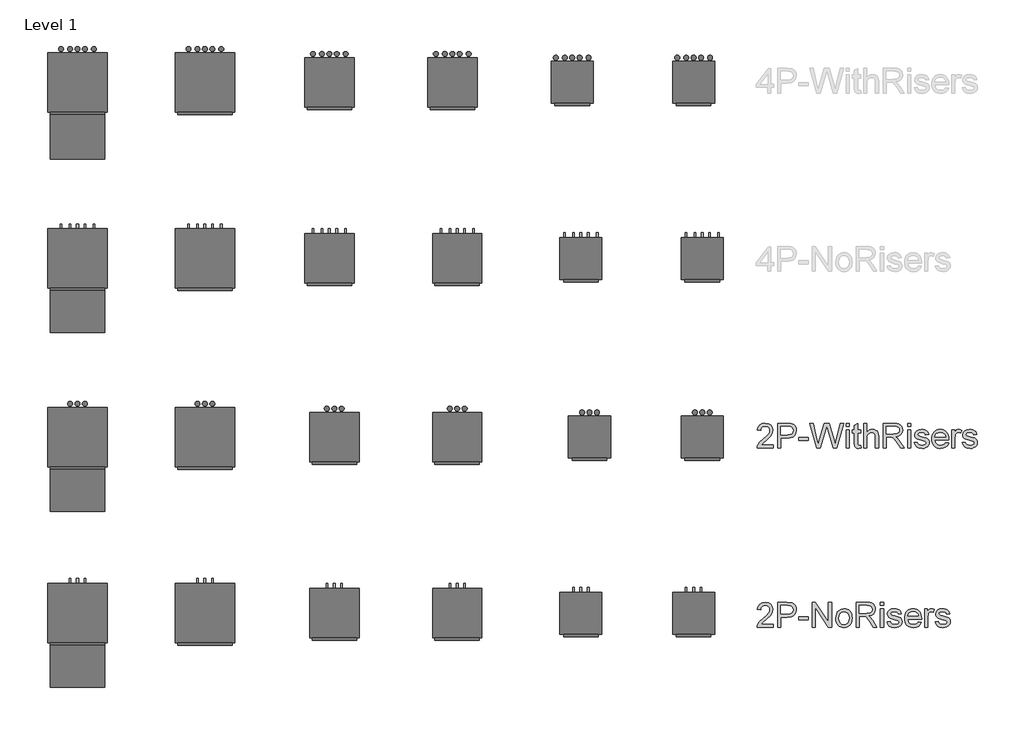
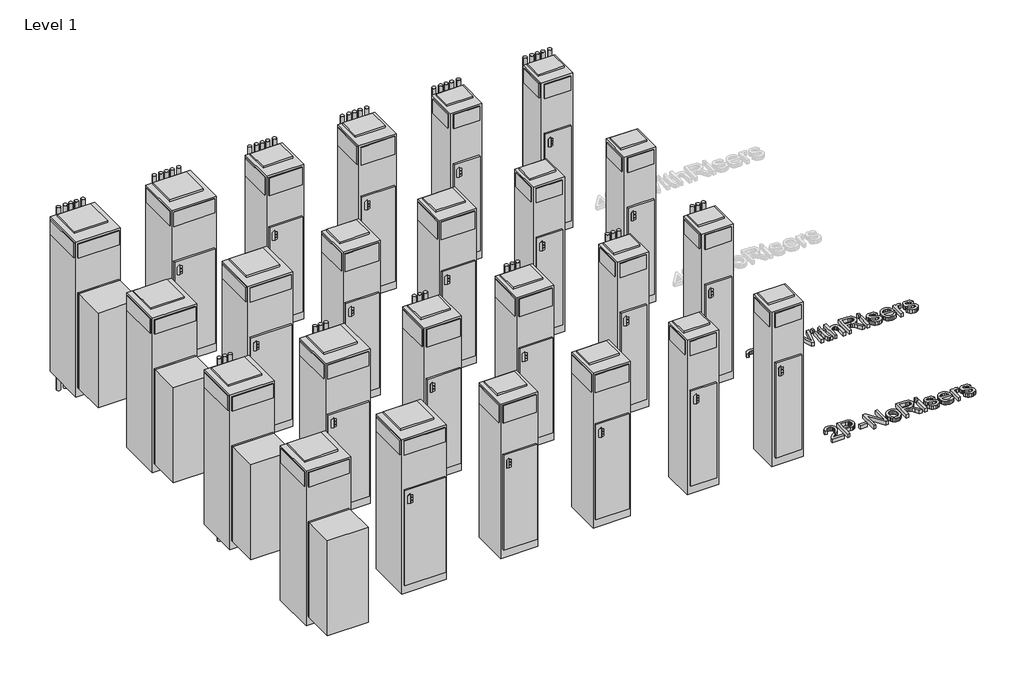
# One storey, part 1 of 2: 26 proxies.
"""IFC4 building model written with IfcOpenShell, lengths in millimetres."""

from ifc_helpers import new_model, si_unit, origin, origin_with_axes, place, context, project, spatial, polyline, outline, extrude, transform, mapped, element, save
from components import mechanical_equipment_310e72c7, mechanical_equipment_4f5b1f48, mechanical_equipment_7a065b04, mechanical_equipment_db7b1876, mechanical_equipment_857d9a1e, mechanical_equipment_d8c96383, mechanical_equipment_66b3db64, mechanical_equipment_66c7af25, mechanical_equipment_680828ab, mechanical_equipment_e82e2682, mechanical_equipment_e88e7db6, mechanical_equipment_dbb67412, mechanical_equipment_ebc7d561, mechanical_equipment_45dd22f4, mechanical_equipment_4983d0d6, mechanical_equipment_c4429fdb

model = new_model("IFC4")

# Units and contexts
model_context = context("Model", 3, world=origin())
ifc_project = project(units=[si_unit("LENGTHUNIT", "METRE", prefix="MILLI")], contexts=[model_context])

# Site, building, storey
site = spatial("IfcSite", under=ifc_project)
building = spatial("IfcBuilding", under=site)
storey = spatial("IfcBuildingStorey", under=building, Name="Level 1", Elevation=0.0)

# Proxies
placement = place(None, origin())
mechanical_equipment_shape = mechanical_equipment_310e72c7(model_context)
element("IfcBuildingElementProxy", 1, Name="Concealed_Modular_Fan_Coil_Unit_-_MPY_-_IEC_-_2-Pipe_Cool-EHeat_-_NoRisers_2022 : Size 12 - 277v/60Hz/1Ph - 4 Row 8.0kW", ObjectType="Concealed_Modular_Fan_Coil_Unit_-_MPY_-_IEC_-_2-Pipe_Cool-EHeat_-_NoRisers_2022 : Size 12 - 277v/60Hz/1Ph - 4 Row 8.0kW", at=placement, inside=storey, context=model_context, shape_type="MappedRepresentation", body=[
    mapped(mechanical_equipment_shape, transform((-20309.8042003, -2081.525016, 0.0), x_axis=(1.0, 0.0, 0.0), y_axis=(0.0, 1.0, 0.0), z_axis=(0.0, 0.0, 1.0))),
])
mechanical_equipment_2_shape = mechanical_equipment_4f5b1f48(model_context)
element("IfcBuildingElementProxy", 2, Name="Concealed_Modular_Fan_Coil_Unit_-_MPY_-_IEC_-_2-Pipe_Cool-EHeat_-_WithRisers_2022 : Size 12 - 277v/60Hz/1Ph - 4 Row 8.0kW", ObjectType="Concealed_Modular_Fan_Coil_Unit_-_MPY_-_IEC_-_2-Pipe_Cool-EHeat_-_WithRisers_2022 : Size 12 - 277v/60Hz/1Ph - 4 Row 8.0kW", at=placement, inside=storey, context=model_context, shape_type="MappedRepresentation", body=[
    mapped(mechanical_equipment_2_shape, transform((-20309.8042003, -271.2759679, 0.0), x_axis=(1.0, 0.0, 0.0), y_axis=(0.0, 1.0, 0.0), z_axis=(0.0, 0.0, 1.0))),
])
mechanical_equipment_3_shape = mechanical_equipment_7a065b04(model_context)
element("IfcBuildingElementProxy", 3, Name="Concealed_Modular_Fan_Coil_Unit_-_MPY_-_IEC_-_4-Pipe_-_NoRisers_2022 : Size 12 - 277v/60Hz/1Ph - 4/1 Coil", ObjectType="Concealed_Modular_Fan_Coil_Unit_-_MPY_-_IEC_-_4-Pipe_-_NoRisers_2022 : Size 12 - 277v/60Hz/1Ph - 4/1 Coil", at=placement, inside=storey, context=model_context, shape_type="MappedRepresentation", body=[
    mapped(mechanical_equipment_3_shape, transform((-20309.8042003, 1565.7255291, 0.0), x_axis=(1.0, 0.0, 0.0), y_axis=(0.0, 1.0, 0.0), z_axis=(0.0, 0.0, 1.0))),
])
mechanical_equipment_4_shape = mechanical_equipment_db7b1876(model_context)
element("IfcBuildingElementProxy", 4, Name="Concealed_Modular_Fan_Coil_Unit_-_MPY_-_IEC_-_4-Pipe_-_WithRisers_2022 : Size 12 - 277v/60Hz/1Ph - 4/1 Coil", ObjectType="Concealed_Modular_Fan_Coil_Unit_-_MPY_-_IEC_-_4-Pipe_-_WithRisers_2022 : Size 12 - 277v/60Hz/1Ph - 4/1 Coil", at=placement, inside=storey, context=model_context, shape_type="MappedRepresentation", body=[
    mapped(mechanical_equipment_4_shape, transform((-20309.8042003, 3376.4724904, 0.0), x_axis=(1.0, 0.0, 0.0), y_axis=(0.0, 1.0, 0.0), z_axis=(0.0, 0.0, 1.0))),
])
mechanical_equipment_5_shape = mechanical_equipment_857d9a1e(model_context)
element("IfcBuildingElementProxy", 5, Name="Concealed_Modular_Fan_Coil_Unit_-_MPY_-_IEC_-_2-Pipe_Cool-EHeat_-_NoRisers_2022 : Size 10 - 277v/60Hz/1Ph - 4 Row 8.0kW", ObjectType="Concealed_Modular_Fan_Coil_Unit_-_MPY_-_IEC_-_2-Pipe_Cool-EHeat_-_NoRisers_2022 : Size 10 - 277v/60Hz/1Ph - 4 Row 8.0kW", at=placement, inside=storey, context=model_context, shape_type="MappedRepresentation", body=[
    mapped(mechanical_equipment_5_shape, transform((-19000.4584236, -2081.525016, 0.0), x_axis=(1.0, 0.0, 0.0), y_axis=(0.0, 1.0, 0.0), z_axis=(0.0, 0.0, 1.0))),
])
mechanical_equipment_6_shape = mechanical_equipment_d8c96383(model_context)
element("IfcBuildingElementProxy", 6, Name="Concealed_Modular_Fan_Coil_Unit_-_MPY_-_IEC_-_2-Pipe_Cool-EHeat_-_NoRisers_2022 : Size 08 - 277v/60Hz/1Ph - 4 Row 8.0kW", ObjectType="Concealed_Modular_Fan_Coil_Unit_-_MPY_-_IEC_-_2-Pipe_Cool-EHeat_-_NoRisers_2022 : Size 08 - 277v/60Hz/1Ph - 4 Row 8.0kW", at=placement, inside=storey, context=model_context, shape_type="MappedRepresentation", body=[
    mapped(mechanical_equipment_6_shape, transform((-17619.9262772, -2132.325016, 0.0), x_axis=(1.0, 0.0, 0.0), y_axis=(0.0, 1.0, 0.0), z_axis=(0.0, 0.0, 1.0))),
])
element("IfcBuildingElementProxy", 7, Name="Concealed_Modular_Fan_Coil_Unit_-_MPY_-_IEC_-_2-Pipe_Cool-EHeat_-_NoRisers_2022 : Size 06 - 277v/60Hz/1Ph - 4 Row 6.0kW", ObjectType="Concealed_Modular_Fan_Coil_Unit_-_MPY_-_IEC_-_2-Pipe_Cool-EHeat_-_NoRisers_2022 : Size 06 - 277v/60Hz/1Ph - 4 Row 6.0kW", at=placement, inside=storey, context=model_context, shape_type="MappedRepresentation", body=[
    mapped(mechanical_equipment_6_shape, transform((-16356.5908642, -2132.325016, 0.0), x_axis=(1.0, 0.0, 0.0), y_axis=(0.0, 1.0, 0.0), z_axis=(0.0, 0.0, 1.0))),
])
mechanical_equipment_7_shape = mechanical_equipment_66b3db64(model_context)
element("IfcBuildingElementProxy", 8, Name="Concealed_Modular_Fan_Coil_Unit_-_MPY_-_IEC_-_2-Pipe_Cool-EHeat_-_NoRisers_2022 : Size 04 - 277v/60Hz/1Ph - 4 Row 4.0kW", ObjectType="Concealed_Modular_Fan_Coil_Unit_-_MPY_-_IEC_-_2-Pipe_Cool-EHeat_-_NoRisers_2022 : Size 04 - 277v/60Hz/1Ph - 4 Row 4.0kW", at=placement, inside=storey, context=model_context, shape_type="MappedRepresentation", body=[
    mapped(mechanical_equipment_7_shape, transform((-15048.2489183, -2170.425016, 0.0), x_axis=(1.0, 0.0, 0.0), y_axis=(0.0, 1.0, 0.0), z_axis=(0.0, 0.0, 1.0))),
])
element("IfcBuildingElementProxy", 9, Name="Concealed_Modular_Fan_Coil_Unit_-_MPY_-_IEC_-_2-Pipe_Cool-EHeat_-_NoRisers_2022 : Size 03 - 277v/60Hz/1Ph - 4 Row 3.0kW", ObjectType="Concealed_Modular_Fan_Coil_Unit_-_MPY_-_IEC_-_2-Pipe_Cool-EHeat_-_NoRisers_2022 : Size 03 - 277v/60Hz/1Ph - 4 Row 3.0kW", at=placement, inside=storey, context=model_context, shape_type="MappedRepresentation", body=[
    mapped(mechanical_equipment_7_shape, transform((-13889.4102388, -2170.425016, 0.0), x_axis=(1.0, 0.0, 0.0), y_axis=(0.0, 1.0, 0.0), z_axis=(0.0, 0.0, 1.0))),
])
mechanical_equipment_8_shape = mechanical_equipment_66c7af25(model_context)
element("IfcBuildingElementProxy", 10, Name="Concealed_Modular_Fan_Coil_Unit_-_MPY_-_IEC_-_2-Pipe_Cool-EHeat_-_WithRisers_2022 : Size 10 - 277v/60Hz/1Ph - 4 Row 8.0kW", ObjectType="Concealed_Modular_Fan_Coil_Unit_-_MPY_-_IEC_-_2-Pipe_Cool-EHeat_-_WithRisers_2022 : Size 10 - 277v/60Hz/1Ph - 4 Row 8.0kW", at=placement, inside=storey, context=model_context, shape_type="MappedRepresentation", body=[
    mapped(mechanical_equipment_8_shape, transform((-19000.4584236, -271.2759679, 0.0), x_axis=(1.0, 0.0, 0.0), y_axis=(0.0, 1.0, 0.0), z_axis=(0.0, 0.0, 1.0))),
])
mechanical_equipment_9_shape = mechanical_equipment_680828ab(model_context)
element("IfcBuildingElementProxy", 11, Name="Concealed_Modular_Fan_Coil_Unit_-_MPY_-_IEC_-_2-Pipe_Cool-EHeat_-_WithRisers_2022 : Size 08 - 277v/60Hz/1Ph - 4 Row 8.0kW", ObjectType="Concealed_Modular_Fan_Coil_Unit_-_MPY_-_IEC_-_2-Pipe_Cool-EHeat_-_WithRisers_2022 : Size 08 - 277v/60Hz/1Ph - 4 Row 8.0kW", at=placement, inside=storey, context=model_context, shape_type="MappedRepresentation", body=[
    mapped(mechanical_equipment_9_shape, transform((-17619.9262772, -322.0759679, 0.0), x_axis=(1.0, 0.0, 0.0), y_axis=(0.0, 1.0, 0.0), z_axis=(0.0, 0.0, 1.0))),
])
element("IfcBuildingElementProxy", 12, Name="Concealed_Modular_Fan_Coil_Unit_-_MPY_-_IEC_-_2-Pipe_Cool-EHeat_-_WithRisers_2022 : Size 06 - 277v/60Hz/1Ph - 4 Row 6.0kW", ObjectType="Concealed_Modular_Fan_Coil_Unit_-_MPY_-_IEC_-_2-Pipe_Cool-EHeat_-_WithRisers_2022 : Size 06 - 277v/60Hz/1Ph - 4 Row 6.0kW", at=placement, inside=storey, context=model_context, shape_type="MappedRepresentation", body=[
    mapped(mechanical_equipment_9_shape, transform((-16356.5908642, -322.0759679, 0.0), x_axis=(1.0, 0.0, 0.0), y_axis=(0.0, 1.0, 0.0), z_axis=(0.0, 0.0, 1.0))),
])
mechanical_equipment_10_shape = mechanical_equipment_e82e2682(model_context)
element("IfcBuildingElementProxy", 13, Name="Concealed_Modular_Fan_Coil_Unit_-_MPY_-_IEC_-_2-Pipe_Cool-EHeat_-_WithRisers_2022 : Size 04 - 277v/60Hz/1Ph - 4 Row 4.0kW", ObjectType="Concealed_Modular_Fan_Coil_Unit_-_MPY_-_IEC_-_2-Pipe_Cool-EHeat_-_WithRisers_2022 : Size 04 - 277v/60Hz/1Ph - 4 Row 4.0kW", at=placement, inside=storey, context=model_context, shape_type="MappedRepresentation", body=[
    mapped(mechanical_equipment_10_shape, transform((-14959.3489183, -360.1759679, 0.0), x_axis=(1.0, 0.0, 0.0), y_axis=(0.0, 1.0, 0.0), z_axis=(0.0, 0.0, 1.0))),
])
element("IfcBuildingElementProxy", 14, Name="Concealed_Modular_Fan_Coil_Unit_-_MPY_-_IEC_-_2-Pipe_Cool-EHeat_-_WithRisers_2022 : Size 03 - 277v/60Hz/1Ph - 4 Row 3.0kW", ObjectType="Concealed_Modular_Fan_Coil_Unit_-_MPY_-_IEC_-_2-Pipe_Cool-EHeat_-_WithRisers_2022 : Size 03 - 277v/60Hz/1Ph - 4 Row 3.0kW", at=placement, inside=storey, context=model_context, shape_type="MappedRepresentation", body=[
    mapped(mechanical_equipment_10_shape, transform((-13800.5102388, -360.1759679, 0.0), x_axis=(1.0, 0.0, 0.0), y_axis=(0.0, 1.0, 0.0), z_axis=(0.0, 0.0, 1.0))),
])
mechanical_equipment_11_shape = mechanical_equipment_e88e7db6(model_context)
element("IfcBuildingElementProxy", 15, Name="Concealed_Modular_Fan_Coil_Unit_-_MPY_-_IEC_-_4-Pipe_-_NoRisers_2022 : Size 10 - 277v/60Hz/1Ph - 4/1 Coil", ObjectType="Concealed_Modular_Fan_Coil_Unit_-_MPY_-_IEC_-_4-Pipe_-_NoRisers_2022 : Size 10 - 277v/60Hz/1Ph - 4/1 Coil", at=placement, inside=storey, context=model_context, shape_type="MappedRepresentation", body=[
    mapped(mechanical_equipment_11_shape, transform((-19000.4584236, 1565.7255291, 0.0), x_axis=(1.0, 0.0, 0.0), y_axis=(0.0, 1.0, 0.0), z_axis=(0.0, 0.0, 1.0))),
])
mechanical_equipment_12_shape = mechanical_equipment_dbb67412(model_context)
element("IfcBuildingElementProxy", 16, Name="Concealed_Modular_Fan_Coil_Unit_-_MPY_-_IEC_-_4-Pipe_-_NoRisers_2022 : Size 08 - 277v/60Hz/1Ph - 4/1 Coil", ObjectType="Concealed_Modular_Fan_Coil_Unit_-_MPY_-_IEC_-_4-Pipe_-_NoRisers_2022 : Size 08 - 277v/60Hz/1Ph - 4/1 Coil", at=placement, inside=storey, context=model_context, shape_type="MappedRepresentation", body=[
    mapped(mechanical_equipment_12_shape, transform((-17670.7262772, 1514.9255291, 0.0), x_axis=(1.0, 0.0, 0.0), y_axis=(0.0, 1.0, 0.0), z_axis=(0.0, 0.0, 1.0))),
])
element("IfcBuildingElementProxy", 17, Name="Concealed_Modular_Fan_Coil_Unit_-_MPY_-_IEC_-_4-Pipe_-_NoRisers_2022 : Size 06 - 277v/60Hz/1Ph - 4/1 Coil", ObjectType="Concealed_Modular_Fan_Coil_Unit_-_MPY_-_IEC_-_4-Pipe_-_NoRisers_2022 : Size 06 - 277v/60Hz/1Ph - 4/1 Coil", at=placement, inside=storey, context=model_context, shape_type="MappedRepresentation", body=[
    mapped(mechanical_equipment_12_shape, transform((-16356.5908642, 1514.9255291, 0.0), x_axis=(1.0, 0.0, 0.0), y_axis=(0.0, 1.0, 0.0), z_axis=(0.0, 0.0, 1.0))),
])
mechanical_equipment_13_shape = mechanical_equipment_ebc7d561(model_context)
element("IfcBuildingElementProxy", 18, Name="Concealed_Modular_Fan_Coil_Unit_-_MPY_-_IEC_-_4-Pipe_-_NoRisers_2022 : Size 04 - 277v/60Hz/1Ph - 4/1 Coil", ObjectType="Concealed_Modular_Fan_Coil_Unit_-_MPY_-_IEC_-_4-Pipe_-_NoRisers_2022 : Size 04 - 277v/60Hz/1Ph - 4/1 Coil", at=placement, inside=storey, context=model_context, shape_type="MappedRepresentation", body=[
    mapped(mechanical_equipment_13_shape, transform((-15048.2489183, 1476.8255291, 0.0), x_axis=(1.0, 0.0, 0.0), y_axis=(0.0, 1.0, 0.0), z_axis=(0.0, 0.0, 1.0))),
])
element("IfcBuildingElementProxy", 19, Name="Concealed_Modular_Fan_Coil_Unit_-_MPY_-_IEC_-_4-Pipe_-_NoRisers_2022 : Size 03 - 277v/60Hz/1Ph - 4/1 Coil", ObjectType="Concealed_Modular_Fan_Coil_Unit_-_MPY_-_IEC_-_4-Pipe_-_NoRisers_2022 : Size 03 - 277v/60Hz/1Ph - 4/1 Coil", at=placement, inside=storey, context=model_context, shape_type="MappedRepresentation", body=[
    mapped(mechanical_equipment_13_shape, transform((-13800.5102388, 1476.8255291, 0.0), x_axis=(1.0, 0.0, 0.0), y_axis=(0.0, 1.0, 0.0), z_axis=(0.0, 0.0, 1.0))),
])
mechanical_equipment_14_shape = mechanical_equipment_45dd22f4(model_context)
element("IfcBuildingElementProxy", 20, Name="Concealed_Modular_Fan_Coil_Unit_-_MPY_-_IEC_-_4-Pipe_-_WithRisers_2022 : Size 10 - 277v/60Hz/1Ph - 4/1 Coil", ObjectType="Concealed_Modular_Fan_Coil_Unit_-_MPY_-_IEC_-_4-Pipe_-_WithRisers_2022 : Size 10 - 277v/60Hz/1Ph - 4/1 Coil", at=placement, inside=storey, context=model_context, shape_type="MappedRepresentation", body=[
    mapped(mechanical_equipment_14_shape, transform((-19000.4584236, 3376.4724904, 0.0), x_axis=(1.0, 0.0, 0.0), y_axis=(0.0, 1.0, 0.0), z_axis=(0.0, 0.0, 1.0))),
])
mechanical_equipment_15_shape = mechanical_equipment_4983d0d6(model_context)
element("IfcBuildingElementProxy", 21, Name="Concealed_Modular_Fan_Coil_Unit_-_MPY_-_IEC_-_4-Pipe_-_WithRisers_2022 : Size 08 - 277v/60Hz/1Ph - 4/1 Coil", ObjectType="Concealed_Modular_Fan_Coil_Unit_-_MPY_-_IEC_-_4-Pipe_-_WithRisers_2022 : Size 08 - 277v/60Hz/1Ph - 4/1 Coil", at=placement, inside=storey, context=model_context, shape_type="MappedRepresentation", body=[
    mapped(mechanical_equipment_15_shape, transform((-17670.7262772, 3325.6724904, 0.0), x_axis=(1.0, 0.0, 0.0), y_axis=(0.0, 1.0, 0.0), z_axis=(0.0, 0.0, 1.0))),
])
element("IfcBuildingElementProxy", 22, Name="Concealed_Modular_Fan_Coil_Unit_-_MPY_-_IEC_-_4-Pipe_-_WithRisers_2022 : Size 06 - 277v/60Hz/1Ph - 4/1 Coil", ObjectType="Concealed_Modular_Fan_Coil_Unit_-_MPY_-_IEC_-_4-Pipe_-_WithRisers_2022 : Size 06 - 277v/60Hz/1Ph - 4/1 Coil", at=placement, inside=storey, context=model_context, shape_type="MappedRepresentation", body=[
    mapped(mechanical_equipment_15_shape, transform((-16407.3908642, 3325.6724904, 0.0), x_axis=(1.0, 0.0, 0.0), y_axis=(0.0, 1.0, 0.0), z_axis=(0.0, 0.0, 1.0))),
])
mechanical_equipment_16_shape = mechanical_equipment_c4429fdb(model_context)
element("IfcBuildingElementProxy", 23, Name="Concealed_Modular_Fan_Coil_Unit_-_MPY_-_IEC_-_4-Pipe_-_WithRisers_2022 : Size 04 - 277v/60Hz/1Ph - 4/1 Coil", ObjectType="Concealed_Modular_Fan_Coil_Unit_-_MPY_-_IEC_-_4-Pipe_-_WithRisers_2022 : Size 04 - 277v/60Hz/1Ph - 4/1 Coil", at=placement, inside=storey, context=model_context, shape_type="MappedRepresentation", body=[
    mapped(mechanical_equipment_16_shape, transform((-15137.1489183, 3287.5724904, 0.0), x_axis=(1.0, 0.0, 0.0), y_axis=(0.0, 1.0, 0.0), z_axis=(0.0, 0.0, 1.0))),
])
element("IfcBuildingElementProxy", 24, Name="Concealed_Modular_Fan_Coil_Unit_-_MPY_-_IEC_-_4-Pipe_-_WithRisers_2022 : Size 03 - 277v/60Hz/1Ph - 4/1 Coil", ObjectType="Concealed_Modular_Fan_Coil_Unit_-_MPY_-_IEC_-_4-Pipe_-_WithRisers_2022 : Size 03 - 277v/60Hz/1Ph - 4/1 Coil", at=placement, inside=storey, context=model_context, shape_type="MappedRepresentation", body=[
    mapped(mechanical_equipment_16_shape, transform((-13889.4102388, 3287.5724904, 0.0), x_axis=(1.0, 0.0, 0.0), y_axis=(0.0, 1.0, 0.0), z_axis=(0.0, 0.0, 1.0))),
])
element("IfcBuildingElementProxy", 25, Name="12\" Arial", ObjectType="12\" Arial", at=placement, inside=storey, context=model_context, shape_type="SweptSolid", body=[
    extrude(outline(polyline([(-12701.841203, -2254.4772493), (-12701.841203, -2286.3721278), (-12869.289315, -2286.3721278), (-12865.8631073, -2264.3821042), (-12857.9984034, -2247.1965581), (-12846.4894605, -2230.5249431), (-12806.5585677, -2193.5530479), (-12772.1407545, -2162.9819315), (-12751.4900666, -2140.415682), (-12741.1647226, -2122.1010447), (-12737.7229413, -2104.284765), (-12740.9700517, -2088.3139652), (-12750.711383, -2075.0374106), (-12765.6854678, -2066.0903365), (-12784.6308387, -2063.1079785), (-12804.5262036, -2066.020255), (-12819.9830722, -2074.7570845), (-12829.9580086, -2088.6332255), (-12833.4075767, -2106.9634364), (-12865.3024552, -2102.9765766), (-12857.5701275, -2072.1251341), (-12840.8517915, -2049.590032), (-12816.0195729, -2035.807333), (-12783.9455972, -2031.2131), (-12751.6380164, -2036.3212642), (-12726.8525188, -2051.6457566), (-12711.0841768, -2074.5390531), (-12705.8280628, -2102.3536298), (-12711.4968791, -2132.5976991), (-12730.3410212, -2163.8696307), (-12776.0341723, -2207.5693519), (-12812.7257414, -2238.249484), (-12827.1158136, -2254.4772493), (-12701.841203, -2254.4772493)])), origin_with_axes(), (0.0, 0.0, 1.0), 50.8),
    extrude(outline(polyline([(-12657.9857451, -2286.3721278), (-12657.9857451, -2031.2131), (-12563.422414, -2031.2131), (-12525.2980671, -2033.6425927), (-12508.2994051, -2038.1823179), (-12494.3064615, -2045.5720248), (-12483.0389105, -2056.1465475), (-12474.2164258, -2070.2407199), (-12468.5164622, -2086.8656138), (-12466.6164743, -2105.0323012), (-12471.7479989, -2135.1050601), (-12487.1425728, -2160.163097), (-12499.4710802, -2170.0290176), (-12515.9305039, -2177.0761038), (-12536.5208438, -2181.3043555), (-12561.2421001, -2182.7137728), (-12626.0908666, -2182.7137728), (-12626.0908666, -2286.3721278), (-12657.9857451, -2286.3721278)]), holes=[polyline([(-12626.0908666, -2150.8188943), (-12559.3732595, -2150.8188943), (-12531.0914727, -2147.8910441), (-12512.4030674, -2139.1074936), (-12501.9842814, -2125.0133212), (-12498.5113527, -2106.1536055), (-12500.5592905, -2091.8258281), (-12506.7031038, -2079.7406593), (-12516.1796826, -2070.6456353), (-12528.2259173, -2065.2882925), (-12560.1207957, -2063.1079785), (-12626.0908666, -2063.1079785), (-12626.0908666, -2150.8188943)])]), origin_with_axes(), (0.0, 0.0, 1.0), 50.8),
    extrude(outline(polyline([(-12442.6953154, -2210.6217914), (-12442.6953154, -2178.726913), (-12343.0238202, -2178.726913), (-12343.0238202, -2210.6217914), (-12442.6953154, -2210.6217914)])), origin_with_axes(), (0.0, 0.0, 1.0), 50.8),
    extrude(outline(polyline([(-12303.1552221, -2286.3721278), (-12303.1552221, -2031.2131), (-12269.017735, -2031.2131), (-12135.7071101, -2233.3593513), (-12135.7071101, -2031.2131), (-12103.8122316, -2031.2131), (-12103.8122316, -2286.3721278), (-12137.9497188, -2286.3721278), (-12271.2603436, -2084.1635819), (-12271.2603436, -2286.3721278), (-12303.1552221, -2286.3721278)])), origin_with_axes(), (0.0, 0.0, 1.0), 50.8),
    extrude(outline(polyline([(-12059.9567737, -2192.6809223), (-12058.2319897, -2168.4132493), (-12053.0576374, -2147.5017024), (-12044.4337171, -2129.9462816), (-12032.3602285, -2115.7469869), (-12006.7882605, -2100.1888895), (-11976.1704231, -2095.002857), (-11958.5741214, -2096.5816379), (-11942.6636696, -2101.3179806), (-11928.4390678, -2109.2118852), (-11915.9003158, -2120.2633515), (-11905.6664672, -2134.0986116), (-11898.3565753, -2150.3438973), (-11893.9706401, -2168.9992086), (-11892.5086618, -2190.0645455), (-11895.0938912, -2222.2864711), (-11902.8495794, -2246.8150031), (-11915.5499082, -2265.1841482), (-11932.9690594, -2278.927913), (-11953.6586815, -2287.501219), (-11976.1704231, -2290.3589876), (-11994.0236903, -2288.7860468), (-12010.082092, -2284.0672245), (-12024.345628, -2276.2025206), (-12036.8142985, -2265.1919351), (-12046.9391314, -2251.2223521), (-12054.1711549, -2234.4806556), (-12058.510369, -2214.9668457), (-12059.9567737, -2192.6809223)]), holes=[polyline([(-12028.0618953, -2192.6186276), (-12024.3709352, -2221.4844271), (-12013.298055, -2242.0494598), (-11996.6342269, -2254.3604468), (-11976.1704231, -2258.4641091), (-11955.8000612, -2254.3370863), (-11939.1673805, -2241.9560178), (-11928.0945003, -2221.1184458), (-11924.4035402, -2191.6219127), (-11928.1178608, -2163.5970915), (-11939.2608225, -2143.3123848), (-11955.9168638, -2131.0013978), (-11976.1704231, -2126.8977354), (-11996.6342269, -2130.9858241), (-12013.298055, -2143.2500901), (-12024.3709352, -2163.7684018), (-12028.0618953, -2192.6186276)])]), origin_with_axes(), (0.0, 0.0, 1.0), 50.8),
    extrude(outline(polyline([(-11852.6400637, -2286.3721278), (-11852.6400637, -2031.2131), (-11742.6899455, -2031.2131), (-11713.1389045, -2032.9339907), (-11691.6394515, -2038.0966627), (-11675.9256174, -2047.6277494), (-11663.7314329, -2062.4538843), (-11655.9056631, -2080.8386031), (-11653.2970732, -2101.0454414), (-11657.618767, -2126.1813466), (-11670.5838482, -2147.0189185), (-11692.5816586, -2162.2966899), (-11724.0015402, -2170.7531933), (-11705.873787, -2184.3957293), (-11680.0214929, -2217.225028), (-11637.4742234, -2286.3721278), (-11674.5395606, -2286.3721278), (-11707.7426275, -2233.4839407), (-11731.726081, -2198.474328), (-11748.5767932, -2181.9350892), (-11763.7455489, -2175.8613575), (-11782.2470702, -2174.7400532), (-11820.7451852, -2174.7400532), (-11820.7451852, -2286.3721278), (-11852.6400637, -2286.3721278)]), holes=[polyline([(-11820.7451852, -2142.8451747), (-11749.3554768, -2142.8451747), (-11712.9442337, -2138.3288101), (-11700.9680806, -2132.457536), (-11692.2623984, -2123.8764433), (-11686.9595634, -2113.4965914), (-11685.1919517, -2102.2290404), (-11688.5636515, -2086.6709429), (-11698.6787509, -2074.1341377), (-11716.0823284, -2065.8645183), (-11741.3194624, -2063.1079785), (-11820.7451852, -2063.1079785), (-11820.7451852, -2142.8451747)])]), origin_with_axes(), (0.0, 0.0, 1.0), 50.8),
    extrude(outline(polyline([(-11601.4678957, -2063.1079785), (-11601.4678957, -2031.2131), (-11569.5730172, -2031.2131), (-11569.5730172, -2063.1079785), (-11601.4678957, -2063.1079785)])), origin_with_axes(), (0.0, 0.0, 1.0), 50.8),
    extrude(outline(polyline([(-11601.4678957, -2286.3721278), (-11601.4678957, -2098.9897168), (-11569.5730172, -2098.9897168), (-11569.5730172, -2286.3721278), (-11601.4678957, -2286.3721278)])), origin_with_axes(), (0.0, 0.0, 1.0), 50.8),
    extrude(outline(polyline([(-11533.691279, -2230.5560905), (-11501.7964005, -2226.5692307), (-11496.7661047, -2240.2117666), (-11487.0325603, -2250.2412108), (-11472.5334724, -2256.4083846), (-11453.2065466, -2258.4641091), (-11434.1132258, -2256.5796949), (-11420.6887212, -2250.9264523), (-11412.746149, -2242.7347013), (-11410.0986249, -2233.2347619), (-11412.7617226, -2225.1053056), (-11420.7510159, -2218.9069845), (-11453.5803147, -2209.8119605), (-11501.6095164, -2194.2071421), (-11513.7647667, -2186.3657987), (-11522.5716778, -2175.9859468), (-11527.9212338, -2163.7294677), (-11529.7044191, -2150.2582421), (-11523.9733082, -2126.49282), (-11508.3373424, -2108.3339195), (-11488.0604225, -2098.8962748), (-11460.619614, -2095.002857), (-11439.8599104, -2096.5680109), (-11421.8100256, -2101.2634728), (-11407.2953641, -2108.6298192), (-11397.1413305, -2118.207627), (-11390.4135046, -2130.705498), (-11386.177466, -2146.8320345), (-11418.0723445, -2150.8188943), (-11422.0981385, -2140.7816633), (-11430.0640713, -2133.2206459), (-11442.0480112, -2128.4784631), (-11458.1278266, -2126.8977354), (-11476.4424639, -2128.4083815), (-11488.652222, -2132.9403198), (-11495.520211, -2139.4812617), (-11497.8095407, -2147.0189185), (-11494.0095649, -2156.3008265), (-11482.1112802, -2163.3401259), (-11454.6393243, -2170.1302465), (-11407.8248689, -2185.1432655), (-11395.459374, -2192.3227279), (-11386.084024, -2202.1497143), (-11380.1738158, -2214.6553723), (-11378.2037464, -2229.870849), (-11380.5164366, -2245.6002568), (-11387.4545071, -2260.3952444), (-11398.7532055, -2273.0955732), (-11414.1477794, -2282.5410047), (-11432.7427427, -2288.4044919), (-11453.6426093, -2290.3589876), (-11485.8022402, -2286.5901592), (-11509.2717626, -2275.283674), (-11524.9388758, -2256.5641213), (-11533.691279, -2230.5560905)])), origin_with_axes(), (0.0, 0.0, 1.0), 50.8),
    extrude(outline(polyline([(-11211.1294025, -2230.5560905), (-11179.8574709, -2234.5429503), (-11191.125022, -2258.1059147), (-11209.1048253, -2275.7197368), (-11233.3919654, -2286.6991749), (-11263.5815269, -2290.3589876), (-11283.3717695, -2288.7802067), (-11301.0050586, -2284.043864), (-11316.4813943, -2276.1499594), (-11329.8007765, -2265.098493), (-11340.5115688, -2251.1970449), (-11348.1621348, -2234.7531949), (-11352.7524744, -2215.766943), (-11354.2825875, -2194.2382894), (-11352.7369007, -2171.97962), (-11348.0998401, -2152.3606877), (-11340.3714058, -2135.3814928), (-11329.5515978, -2121.0420351), (-11316.2672563, -2109.6498947), (-11301.1452217, -2101.5126515), (-11284.1854938, -2096.6303056), (-11265.3880727, -2095.002857), (-11247.1960782, -2096.6264122), (-11230.7444413, -2101.4970778), (-11216.0331622, -2109.6148539), (-11203.0622409, -2120.9797404), (-11192.4740912, -2135.2880508), (-11184.9111272, -2152.2360984), (-11180.3733488, -2171.8238832), (-11178.8607559, -2194.0514054), (-11179.04764, -2202.6480718), (-11322.3877091, -2202.6480718), (-11316.8668427, -2226.5225097), (-11304.0419245, -2244.074037), (-11285.5326163, -2254.8665911), (-11262.95858, -2258.4641091), (-11245.9832785, -2256.7977263), (-11231.6866484, -2251.7985779), (-11220.0686898, -2243.1551904), (-11211.1294025, -2230.5560905)]), holes=[polyline([(-11322.3877091, -2170.7531933), (-11210.7556344, -2170.7531933), (-11215.0695413, -2153.9024812), (-11223.5260447, -2141.8484597), (-11242.1210081, -2130.6354165), (-11265.5126621, -2126.8977354), (-11287.0121151, -2129.8800935), (-11304.7894607, -2138.8271675), (-11317.1471687, -2152.77339), (-11322.3877091, -2170.7531933)])]), origin_with_axes(), (0.0, 0.0, 1.0), 50.8),
    extrude(outline(polyline([(-11146.9658775, -2286.3721278), (-11146.9658775, -2098.9897168), (-11119.0578588, -2098.9897168), (-11119.0578588, -2126.7108514), (-11108.7480885, -2110.6388228), (-11099.2481491, -2101.1700307), (-11089.7170624, -2096.5446504), (-11079.3138501, -2095.002857), (-11063.4287055, -2097.463497), (-11047.2943822, -2104.8454171), (-11057.9467733, -2133.4386773), (-11080.3728597, -2126.8977354), (-11089.8961596, -2128.4706762), (-11098.4071709, -2133.1894986), (-11105.2829467, -2140.6960081), (-11109.9005402, -2150.6320103), (-11115.070999, -2187.8842316), (-11115.070999, -2286.3721278), (-11146.9658775, -2286.3721278)])), origin_with_axes(), (0.0, 0.0, 1.0), 50.8),
    extrude(outline(polyline([(-11039.3206626, -2230.5560905), (-11007.4257842, -2226.5692307), (-11002.3954884, -2240.2117666), (-10992.6619439, -2250.2412108), (-10978.1628561, -2256.4083846), (-10958.8359302, -2258.4641091), (-10939.7426094, -2256.5796949), (-10926.3181049, -2250.9264523), (-10918.3755326, -2242.7347013), (-10915.7280085, -2233.2347619), (-10918.3911063, -2225.1053056), (-10926.3803996, -2218.9069845), (-10959.2096983, -2209.8119605), (-11007.2389001, -2194.2071421), (-11019.3941504, -2186.3657987), (-11028.2010614, -2175.9859468), (-11033.5506175, -2163.7294677), (-11035.3338028, -2150.2582421), (-11029.6026918, -2126.49282), (-11013.966726, -2108.3339195), (-10993.6898062, -2098.8962748), (-10966.2489977, -2095.002857), (-10945.4892941, -2096.5680109), (-10927.4394092, -2101.2634728), (-10912.9247477, -2108.6298192), (-10902.7707142, -2118.207627), (-10896.0428882, -2130.705498), (-10891.8068497, -2146.8320345), (-10923.7017282, -2150.8188943), (-10927.7275222, -2140.7816633), (-10935.6934549, -2133.2206459), (-10947.6773949, -2128.4784631), (-10963.7572103, -2126.8977354), (-10982.0718476, -2128.4083815), (-10994.2816057, -2132.9403198), (-11001.1495947, -2139.4812617), (-11003.4389243, -2147.0189185), (-10999.6389486, -2156.3008265), (-10987.7406639, -2163.3401259), (-10960.268708, -2170.1302465), (-10913.4542526, -2185.1432655), (-10901.0887577, -2192.3227279), (-10891.7134077, -2202.1497143), (-10885.8031995, -2214.6553723), (-10883.8331301, -2229.870849), (-10886.1458202, -2245.6002568), (-10893.0838907, -2260.3952444), (-10904.3825891, -2273.0955732), (-10919.777163, -2282.5410047), (-10938.3721264, -2288.4044919), (-10959.271993, -2290.3589876), (-10991.4316239, -2286.5901592), (-11014.9011463, -2275.283674), (-11030.5682595, -2256.5641213), (-11039.3206626, -2230.5560905)])), origin_with_axes(), (0.0, 0.0, 1.0), 50.8),
])
element("IfcBuildingElementProxy", 26, Name="12\" Arial", ObjectType="12\" Arial", at=placement, inside=storey, context=model_context, shape_type="SweptSolid", body=[
    extrude(outline(polyline([(-12701.841203, -412.0348889), (-12701.841203, -443.9297673), (-12869.289315, -443.9297673), (-12865.8631073, -421.9397437), (-12857.9984034, -404.7541976), (-12846.4894605, -388.0825827), (-12806.5585677, -351.1106874), (-12772.1407545, -320.539571), (-12751.4900666, -297.9733215), (-12741.1647226, -279.6586843), (-12737.7229413, -261.8424045), (-12740.9700517, -245.8716047), (-12750.711383, -232.5950501), (-12765.6854678, -223.647976), (-12784.6308387, -220.665618), (-12804.5262036, -223.5778945), (-12819.9830722, -232.314724), (-12829.9580086, -246.190865), (-12833.4075767, -264.5210759), (-12865.3024552, -260.5342161), (-12857.5701275, -229.6827736), (-12840.8517915, -207.1476715), (-12816.0195729, -193.3649725), (-12783.9455972, -188.7707395), (-12751.6380164, -193.8789037), (-12726.8525188, -209.2033961), (-12711.0841768, -232.0966926), (-12705.8280628, -259.9112693), (-12711.4968791, -290.1553386), (-12730.3410212, -321.4272702), (-12776.0341723, -365.1269914), (-12812.7257414, -395.8071235), (-12827.1158136, -412.0348889), (-12701.841203, -412.0348889)])), origin_with_axes(), (0.0, 0.0, 1.0), 50.8),
    extrude(outline(polyline([(-12657.9857451, -443.9297673), (-12657.9857451, -188.7707395), (-12563.422414, -188.7707395), (-12525.2980671, -191.2002322), (-12508.2994051, -195.7399574), (-12494.3064615, -203.1296643), (-12483.0389105, -213.704187), (-12474.2164258, -227.7983594), (-12468.5164622, -244.4232533), (-12466.6164743, -262.5899407), (-12471.7479989, -292.6626996), (-12487.1425728, -317.7207365), (-12499.4710802, -327.5866572), (-12515.9305039, -334.6337433), (-12536.5208438, -338.8619951), (-12561.2421001, -340.2714123), (-12626.0908666, -340.2714123), (-12626.0908666, -443.9297673), (-12657.9857451, -443.9297673)]), holes=[polyline([(-12626.0908666, -308.3765338), (-12559.3732595, -308.3765338), (-12531.0914727, -305.4486836), (-12512.4030674, -296.6651331), (-12501.9842814, -282.5709608), (-12498.5113527, -263.711245), (-12500.5592905, -249.3834676), (-12506.7031038, -237.2982988), (-12516.1796826, -228.2032748), (-12528.2259173, -222.845932), (-12560.1207957, -220.665618), (-12626.0908666, -220.665618), (-12626.0908666, -308.3765338)])]), origin_with_axes(), (0.0, 0.0, 1.0), 50.8),
    extrude(outline(polyline([(-12442.6953154, -368.179431), (-12442.6953154, -336.2845525), (-12343.0238202, -336.2845525), (-12343.0238202, -368.179431), (-12442.6953154, -368.179431)])), origin_with_axes(), (0.0, 0.0, 1.0), 50.8),
    extrude(outline(polyline([(-12257.4932184, -443.9297673), (-12327.076381, -188.7707395), (-12294.1847875, -188.7707395), (-12253.817832, -356.4680303), (-12241.3588951, -408.2349131), (-12228.0278326, -362.44832), (-12177.4445487, -188.7707395), (-12130.0382938, -188.7707395), (-12093.28443, -314.668297), (-12077.5394485, -361.3893103), (-12065.9370635, -408.2349131), (-12053.8518947, -357.9631027), (-12013.111171, -188.7707395), (-11980.2195776, -188.7707395), (-12049.8650349, -443.9297673), (-12083.9402273, -443.9297673), (-12145.1136075, -247.0785643), (-12153.6479793, -219.6066084), (-12163.2413607, -252.6850859), (-12218.9951033, -443.9297673), (-12257.4932184, -443.9297673)])), origin_with_axes(), (0.0, 0.0, 1.0), 50.8),
    extrude(outline(polyline([(-11952.3115589, -220.665618), (-11952.3115589, -188.7707395), (-11920.4166804, -188.7707395), (-11920.4166804, -220.665618), (-11952.3115589, -220.665618)])), origin_with_axes(), (0.0, 0.0, 1.0), 50.8),
    extrude(outline(polyline([(-11952.3115589, -443.9297673), (-11952.3115589, -256.5473563), (-11920.4166804, -256.5473563), (-11920.4166804, -443.9297673), (-11952.3115589, -443.9297673)])), origin_with_axes(), (0.0, 0.0, 1.0), 50.8),
    extrude(outline(polyline([(-11804.797746, -417.329937), (-11800.8108862, -444.8641876), (-11824.6697503, -447.9166271), (-11839.9786691, -446.5928651), (-11851.39417, -442.6215789), (-11864.7252325, -428.7298643), (-11868.5875029, -392.5366526), (-11868.5875029, -288.4422348), (-11892.5086618, -288.4422348), (-11892.5086618, -256.5473563), (-11868.5875029, -256.5473563), (-11868.5875029, -211.0099419), (-11836.6926244, -192.2592419), (-11836.6926244, -256.5473563), (-11804.797746, -256.5473563), (-11804.797746, -288.4422348), (-11836.6926244, -288.4422348), (-11836.6926244, -391.6022323), (-11835.010668, -408.048029), (-11829.5598831, -413.872582), (-11818.6894606, -416.0217487), (-11804.797746, -417.329937)])), origin_with_axes(), (0.0, 0.0, 1.0), 50.8),
    extrude(outline(polyline([(-11772.9028675, -443.9297673), (-11772.9028675, -188.7707395), (-11741.007989, -188.7707395), (-11741.007989, -282.5865344), (-11729.2926949, -269.4501428), (-11716.1368362, -260.067006), (-11701.540413, -254.4371239), (-11685.5034251, -252.5604965), (-11666.2387939, -254.6084342), (-11649.6839815, -260.7522475), (-11636.6488188, -270.5091525), (-11627.9431366, -283.3963653), (-11623.0374302, -301.1036294), (-11621.4021948, -325.320688), (-11621.4021948, -443.9297673), (-11653.2970732, -443.9297673), (-11653.2970732, -328.6223063), (-11655.8355816, -308.6568599), (-11663.4511068, -294.9831766), (-11675.7231597, -287.0873254), (-11692.231251, -284.455375), (-11705.7102634, -286.2307735), (-11718.3638712, -291.556969), (-11728.8449519, -299.9200304), (-11735.8063829, -310.8060265), (-11739.7075875, -325.273967), (-11741.007989, -344.3828615), (-11741.007989, -443.9297673), (-11772.9028675, -443.9297673)])), origin_with_axes(), (0.0, 0.0, 1.0), 50.8),
    extrude(outline(polyline([(-11573.559877, -443.9297673), (-11573.559877, -188.7707395), (-11463.6097589, -188.7707395), (-11434.0587179, -190.4916302), (-11412.5592649, -195.6543022), (-11396.8454307, -205.1853889), (-11384.6512462, -220.0115238), (-11376.8254765, -238.3962426), (-11374.2168866, -258.6030809), (-11378.5385803, -283.7389861), (-11391.5036615, -304.5765581), (-11413.501472, -319.8543294), (-11444.9213535, -328.3108329), (-11426.7936003, -341.9533688), (-11400.9413062, -374.7826675), (-11358.3940367, -443.9297673), (-11395.459374, -443.9297673), (-11428.6624409, -391.0415802), (-11452.6458944, -356.0319675), (-11469.4966066, -339.4927287), (-11484.6653622, -333.418997), (-11503.1668835, -332.2976927), (-11541.6649986, -332.2976927), (-11541.6649986, -443.9297673), (-11573.559877, -443.9297673)]), holes=[polyline([(-11541.6649986, -300.4028142), (-11470.2752901, -300.4028142), (-11433.864047, -295.8864496), (-11421.8878939, -290.0151756), (-11413.1822118, -281.4340828), (-11407.8793767, -271.054231), (-11406.1117651, -259.7866799), (-11409.4834649, -244.2285824), (-11419.5985643, -231.6917772), (-11437.0021417, -223.4221578), (-11462.2392758, -220.665618), (-11541.6649986, -220.665618), (-11541.6649986, -300.4028142)])]), origin_with_axes(), (0.0, 0.0, 1.0), 50.8),
    extrude(outline(polyline([(-11322.3877091, -220.665618), (-11322.3877091, -188.7707395), (-11290.4928306, -188.7707395), (-11290.4928306, -220.665618), (-11322.3877091, -220.665618)])), origin_with_axes(), (0.0, 0.0, 1.0), 50.8),
    extrude(outline(polyline([(-11322.3877091, -443.9297673), (-11322.3877091, -256.5473563), (-11290.4928306, -256.5473563), (-11290.4928306, -443.9297673), (-11322.3877091, -443.9297673)])), origin_with_axes(), (0.0, 0.0, 1.0), 50.8),
    extrude(outline(polyline([(-11254.6110923, -388.11373), (-11222.7162138, -384.1268702), (-11217.6859181, -397.7694061), (-11207.9523736, -407.7988503), (-11193.4532858, -413.9660241), (-11174.1263599, -416.0217487), (-11155.0330391, -414.1373345), (-11141.6085346, -408.4840918), (-11133.6659623, -400.2923408), (-11131.0184382, -390.7924014), (-11133.681536, -382.6629451), (-11141.6708293, -376.464624), (-11174.500128, -367.3696001), (-11222.5293298, -351.7647816), (-11234.6845801, -343.9234382), (-11243.4914911, -333.5435864), (-11248.8410472, -321.2871072), (-11250.6242325, -307.8158817), (-11244.8931215, -284.0504595), (-11229.2571557, -265.891559), (-11208.9802359, -256.4539143), (-11181.5394274, -252.5604965), (-11160.7797238, -254.1256504), (-11142.7298389, -258.8211123), (-11128.2151774, -266.1874587), (-11118.0611439, -275.7652665), (-11111.3333179, -288.2631376), (-11107.0972794, -304.389674), (-11138.9921579, -308.3765338), (-11143.0179518, -298.3393028), (-11150.9838846, -290.7782854), (-11162.9678246, -286.0361026), (-11179.04764, -284.455375), (-11197.3622772, -285.9660211), (-11209.5720354, -290.4979594), (-11216.4400244, -297.0389012), (-11218.729354, -304.5765581), (-11214.9293783, -313.8584661), (-11203.0310935, -320.8977654), (-11175.5591377, -327.687886), (-11128.7446823, -342.700905), (-11116.3791874, -349.8803674), (-11107.0038374, -359.7073539), (-11101.0936292, -372.2130118), (-11099.1235598, -387.4284885), (-11101.4362499, -403.1578963), (-11108.3743204, -417.9528839), (-11119.6730188, -430.6532127), (-11135.0675927, -440.0986442), (-11153.6625561, -445.9621314), (-11174.5624227, -447.9166271), (-11206.7220536, -444.1477987), (-11230.191576, -432.8413135), (-11245.8586891, -414.1217608), (-11254.6110923, -388.11373)])), origin_with_axes(), (0.0, 0.0, 1.0), 50.8),
    extrude(outline(polyline([(-10932.0492159, -388.11373), (-10900.7772843, -392.1005898), (-10912.0448353, -415.6635542), (-10930.0246386, -433.2773763), (-10954.3117788, -444.2568144), (-10984.5013403, -447.9166271), (-11004.2915828, -446.3378462), (-11021.924872, -441.6015035), (-11037.4012077, -433.7075989), (-11050.7205899, -422.6561326), (-11061.4313822, -408.7546844), (-11069.0819482, -392.3108344), (-11073.6722877, -373.3245826), (-11075.2024009, -351.7959289), (-11073.6567141, -329.5372595), (-11069.0196535, -309.9183273), (-11061.2912192, -292.9391323), (-11050.4714112, -278.5996746), (-11037.1870697, -267.2075342), (-11022.065035, -259.070291), (-11005.1053072, -254.1879451), (-10986.3078861, -252.5604965), (-10968.1158915, -254.1840517), (-10951.6642547, -259.0547173), (-10936.9529756, -267.1724934), (-10923.9820542, -278.5373799), (-10913.3939046, -292.8456903), (-10905.8309405, -309.7937379), (-10901.2931621, -329.3815228), (-10899.7805693, -351.6090449), (-10899.9674534, -360.2057113), (-11043.3075224, -360.2057113), (-11037.786656, -384.0801492), (-11024.9617378, -401.6316765), (-11006.4524297, -412.4242306), (-10983.8783934, -416.0217487), (-10966.9030919, -414.3553658), (-10952.6064618, -409.3562174), (-10940.9885031, -400.7128299), (-10932.0492159, -388.11373)]), holes=[polyline([(-11043.3075224, -328.3108329), (-10931.6754478, -328.3108329), (-10935.9893547, -311.4601207), (-10944.4458581, -299.4060992), (-10963.0408214, -288.193056), (-10986.4324755, -284.455375), (-11007.9319285, -287.437733), (-11025.7092741, -296.384807), (-11038.0669821, -310.3310295), (-11043.3075224, -328.3108329)])]), origin_with_axes(), (0.0, 0.0, 1.0), 50.8),
    extrude(outline(polyline([(-10867.8856908, -443.9297673), (-10867.8856908, -256.5473563), (-10839.9776722, -256.5473563), (-10839.9776722, -284.2684909), (-10829.6679019, -268.1964623), (-10820.1679625, -258.7276703), (-10810.6368758, -254.1022899), (-10800.2336635, -252.5604965), (-10784.3485189, -255.0211365), (-10768.2141956, -262.4030566), (-10778.8665867, -290.9963168), (-10801.2926731, -284.455375), (-10810.815973, -286.0283157), (-10819.3269843, -290.7471381), (-10826.2027601, -298.2536476), (-10830.8203536, -308.1896498), (-10835.9908124, -345.4418711), (-10835.9908124, -443.9297673), (-10867.8856908, -443.9297673)])), origin_with_axes(), (0.0, 0.0, 1.0), 50.8),
    extrude(outline(polyline([(-10760.240476, -388.11373), (-10728.3455975, -384.1268702), (-10723.3153017, -397.7694061), (-10713.5817573, -407.7988503), (-10699.0826695, -413.9660241), (-10679.7557436, -416.0217487), (-10660.6624228, -414.1373345), (-10647.2379183, -408.4840918), (-10639.295346, -400.2923408), (-10636.6478219, -390.7924014), (-10639.3109197, -382.6629451), (-10647.300213, -376.464624), (-10680.1295117, -367.3696001), (-10728.1587135, -351.7647816), (-10740.3139638, -343.9234382), (-10749.1208748, -333.5435864), (-10754.4704308, -321.2871072), (-10756.2536162, -307.8158817), (-10750.5225052, -284.0504595), (-10734.8865394, -265.891559), (-10714.6096196, -256.4539143), (-10687.1688111, -252.5604965), (-10666.4091074, -254.1256504), (-10648.3592226, -258.8211123), (-10633.8445611, -266.1874587), (-10623.6905275, -275.7652665), (-10616.9627016, -288.2631376), (-10612.7266631, -304.389674), (-10644.6215415, -308.3765338), (-10648.6473355, -298.3393028), (-10656.6132683, -290.7782854), (-10668.5972082, -286.0361026), (-10684.6770237, -284.455375), (-10702.9916609, -285.9660211), (-10715.2014191, -290.4979594), (-10722.0694081, -297.0389012), (-10724.3587377, -304.5765581), (-10720.558762, -313.8584661), (-10708.6604772, -320.8977654), (-10681.1885213, -327.687886), (-10634.3740659, -342.700905), (-10622.0085711, -349.8803674), (-10612.633221, -359.7073539), (-10606.7230128, -372.2130118), (-10604.7529434, -387.4284885), (-10607.0656336, -403.1578963), (-10614.0037041, -417.9528839), (-10625.3024025, -430.6532127), (-10640.6969764, -440.0986442), (-10659.2919397, -445.9621314), (-10680.1918064, -447.9166271), (-10712.3514373, -444.1477987), (-10735.8209597, -432.8413135), (-10751.4880728, -414.1217608), (-10760.240476, -388.11373)])), origin_with_axes(), (0.0, 0.0, 1.0), 50.8),
])

save(model, "model.ifc")
